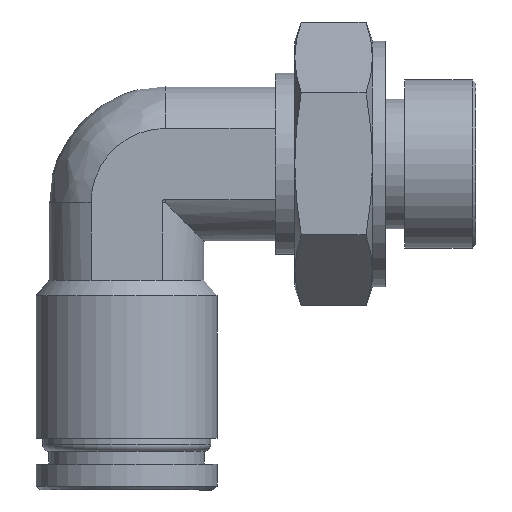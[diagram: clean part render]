
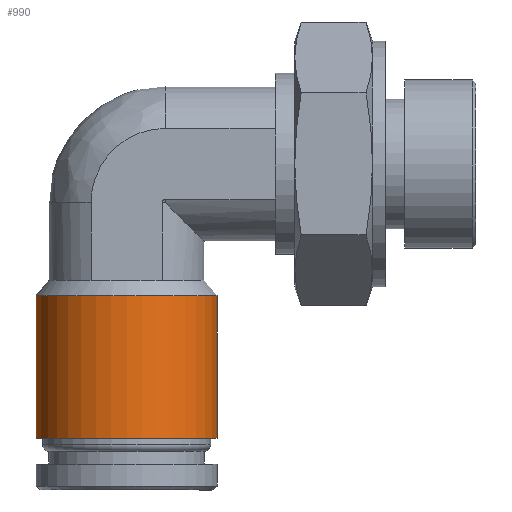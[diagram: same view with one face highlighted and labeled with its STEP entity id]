
A CAD part, left-side view. The second image highlights one B-rep face of the part: STEP entity #990.
In plain terms, the highlighted cylindrical face has radius 7 mm (diameter 14 mm), a full revolution.
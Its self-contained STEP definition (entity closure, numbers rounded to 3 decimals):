
#168=FACE_OUTER_BOUND('',#245,.T.);
#245=EDGE_LOOP('',(#845,#846,#847,#848));
#287=LINE('',#1845,#321);
#321=VECTOR('',#1478,7.);
#389=CIRCLE('',#1182,7.);
#392=CIRCLE('',#1188,7.);
#480=VERTEX_POINT('',#1832);
#482=VERTEX_POINT('',#1842);
#604=EDGE_CURVE('',#480,#480,#389,.T.);
#608=EDGE_CURVE('',#482,#482,#392,.T.);
#609=EDGE_CURVE('',#480,#482,#287,.T.);
#845=ORIENTED_EDGE('',*,*,#604,.F.);
#846=ORIENTED_EDGE('',*,*,#609,.T.);
#847=ORIENTED_EDGE('',*,*,#608,.T.);
#848=ORIENTED_EDGE('',*,*,#609,.F.);
#934=CYLINDRICAL_SURFACE('',#1189,7.);
#990=ADVANCED_FACE('',(#168),#934,.T.);
#1182=AXIS2_PLACEMENT_3D('',#1834,#1461,#1462);
#1188=AXIS2_PLACEMENT_3D('',#1843,#1474,#1475);
#1189=AXIS2_PLACEMENT_3D('',#1844,#1476,#1477);
#1461=DIRECTION('center_axis',(0.,0.,1.));
#1462=DIRECTION('ref_axis',(1.,0.,0.));
#1474=DIRECTION('center_axis',(0.,0.,1.));
#1475=DIRECTION('ref_axis',(1.,0.,0.));
#1476=DIRECTION('center_axis',(0.,0.,1.));
#1477=DIRECTION('ref_axis',(0.,-1.,0.));
#1478=DIRECTION('',(0.,0.,-1.));
#1832=CARTESIAN_POINT('',(0.,18.5,-10.2));
#1834=CARTESIAN_POINT('Origin',(0.,11.5,-10.2));
#1842=CARTESIAN_POINT('',(0.,18.5,-21.2));
#1843=CARTESIAN_POINT('Origin',(0.,11.5,-21.2));
#1844=CARTESIAN_POINT('Origin',(0.,11.5,-15.7));
#1845=CARTESIAN_POINT('',(0.,18.5,-15.7));
